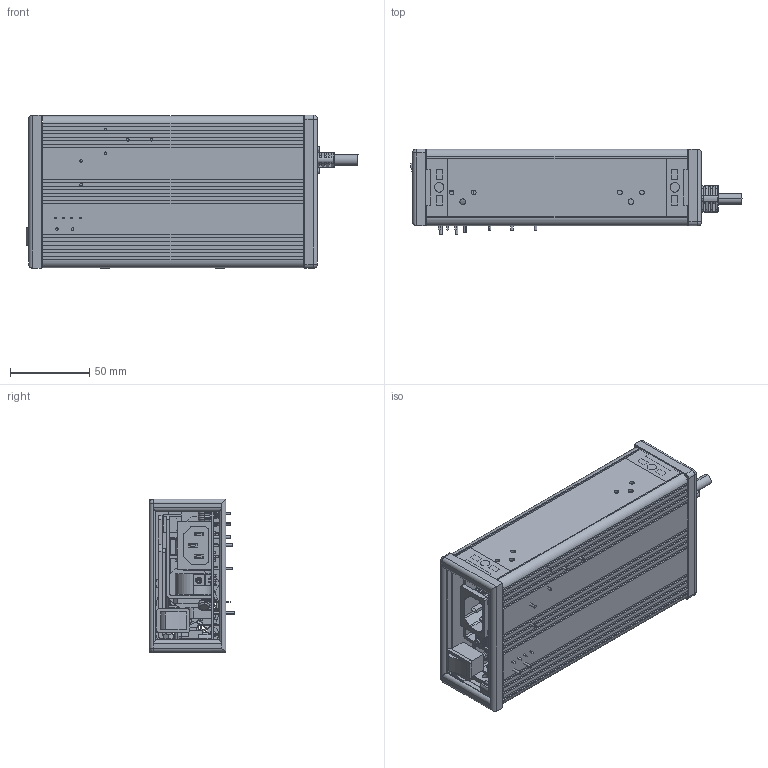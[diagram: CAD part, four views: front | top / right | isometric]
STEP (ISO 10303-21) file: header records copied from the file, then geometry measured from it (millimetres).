
FILE_DESCRIPTION(('Creo Elements/Direct Modeling STEP Export'),'2;1');
FILE_NAME('NPB-360-线材.stp','2022-07-14T11:53:17',(''),(''),'PTC Creo Elements/Direct Modeling STEP processor for AP214 (Solid Model)','PTC Creo Elements/Direct Modeling 19.0E 27-Jun-2016 (C) Parametric Technology GmbH','');
FILE_SCHEMA(('AUTOMOTIVE_DESIGN { 1 0 10303 214 1 1 1 1 }'));
Length unit declared in the file: millimetre
Products named in the file (194): 输出线有风扇0224; 螺丝.3; 螺丝.2.2.1; 螺丝.2.2; 螺丝.2.1; 螺丝.2; 螺丝.1; 螺丝; 热敏; 压敏; 六角螺母; ddd.1; ddd.1.1; Y.1.1.1.1.1.1.1.1; Y.1.1.1.1.1.1.1; Y.1.1.1.1.1.1; Y.1.1.1.1.1; Y.1.1.1.1; Y.1.1.1; Y.1.1; X电容.1; X电容; TU-301-SP-STA715_23.PRT; TR5.1; TR5; TR4; TR3; TR2; TR1; TO220-1.2.1.1.1.1.1.1.1; TO220-1.2.1.1.1.1.1.1; TO220-1.2.1.1.1.1.1; TO220-1.2.1.1.1.1; TO220-1.2.1.1.1; TO220-1.2.1.1; TO220-1.2.1; TO220-1.2; TN-M10_16.PRT; SR_0331; RY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
Assembly tree (98 placements, depth 2):
  输出线有风扇0224
    输出线有风扇0224
  螺丝.3
    螺丝.3
  螺丝.2.2.1
    螺丝.2.2.1
  螺丝.2.2
    螺丝.2.2
  螺丝.2.1
    螺丝.2.1
Bounding box: 209.98 x 54.25 x 97.18 mm (x, y, z)
Volume: 329698.3 mm3; surface area: 328258.5 mm2
Topology: 100 solids, 100 shells, 4493 faces, 12071 edges, 7956 vertices
Faces by surface type: plane 3341, cylinder 962, torus 87, cone 60, sphere 32, bspline 10, extrusion 1
Entity records: 145977 total; most frequent: CARTESIAN_POINT 30206, ORIENTED_EDGE 23582, DIRECTION 21278, EDGE_CURVE 11788, VECTOR 9314, LINE 9313, VERTEX_POINT 7774, AXIS2_PLACEMENT_3D 5982
